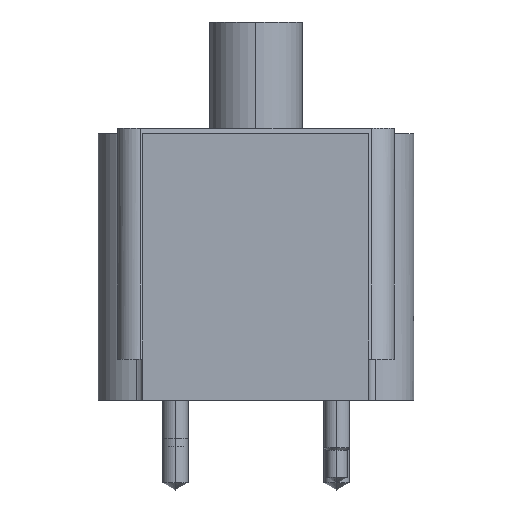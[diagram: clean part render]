
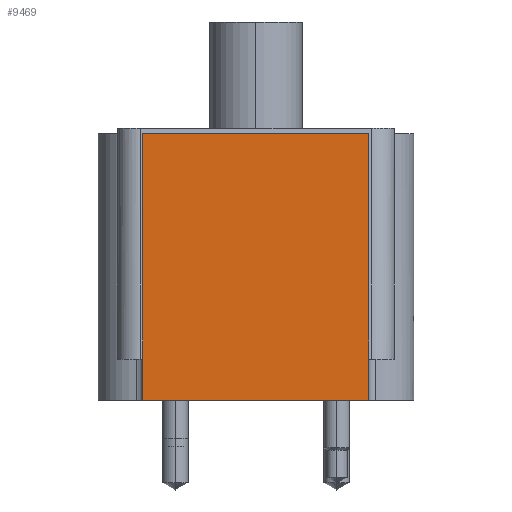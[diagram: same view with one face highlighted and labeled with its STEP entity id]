
A CAD part, left-side view. The second image highlights one B-rep face of the part: STEP entity #9469.
In plain terms, the highlighted planar face has unit normal (-1, 0, 0).
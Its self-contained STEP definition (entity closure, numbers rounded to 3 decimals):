
#9101=CARTESIAN_POINT('',(-84.201,34.988,82.55));
#9102=VERTEX_POINT('',#9101);
#9109=CARTESIAN_POINT('',(-84.201,-34.988,82.55));
#9110=VERTEX_POINT('',#9109);
#9111=CARTESIAN_POINT('',(-84.201,0.0,82.55));
#9112=DIRECTION('',(0.0,1.0,0.0));
#9113=VECTOR('',#9112,1.0);
#9114=LINE('',#9111,#9113);
#9115=EDGE_CURVE('',#9110,#9102,#9114,.T.);
#9439=CARTESIAN_POINT('',(-84.201,34.988,0.0));
#9440=VERTEX_POINT('',#9439);
#9441=CARTESIAN_POINT('',(-84.201,34.988,0.0));
#9442=DIRECTION('',(0.0,0.0,1.0));
#9443=VECTOR('',#9442,1.0);
#9444=LINE('',#9441,#9443);
#9445=EDGE_CURVE('',#9440,#9102,#9444,.T.);
#9446=ORIENTED_EDGE('',*,*,#9445,.F.);
#9447=CARTESIAN_POINT('',(-84.201,-34.988,0.0));
#9448=VERTEX_POINT('',#9447);
#9449=CARTESIAN_POINT('',(-84.201,0.0,0.0));
#9450=DIRECTION('',(0.0,-1.0,0.0));
#9451=VECTOR('',#9450,1.0);
#9452=LINE('',#9449,#9451);
#9453=EDGE_CURVE('',#9440,#9448,#9452,.T.);
#9454=ORIENTED_EDGE('',*,*,#9453,.T.);
#9455=CARTESIAN_POINT('',(-84.201,-34.988,0.0));
#9456=DIRECTION('',(0.0,0.0,-1.0));
#9457=VECTOR('',#9456,1.0);
#9458=LINE('',#9455,#9457);
#9459=EDGE_CURVE('',#9110,#9448,#9458,.T.);
#9460=ORIENTED_EDGE('',*,*,#9459,.F.);
#9461=ORIENTED_EDGE('',*,*,#9115,.T.);
#9462=EDGE_LOOP('',(#9446,#9454,#9460,#9461));
#9463=FACE_OUTER_BOUND('',#9462,.T.);
#9464=CARTESIAN_POINT('',(-84.201,0.0,0.0));
#9465=DIRECTION('',(-1.0,0.0,-0.0));
#9466=DIRECTION('',(-0.0,0.0,1.0));
#9467=AXIS2_PLACEMENT_3D('',#9464,#9465,#9466);
#9468=PLANE('',#9467);
#9469=ADVANCED_FACE('',(#9463),#9468,.T.);
